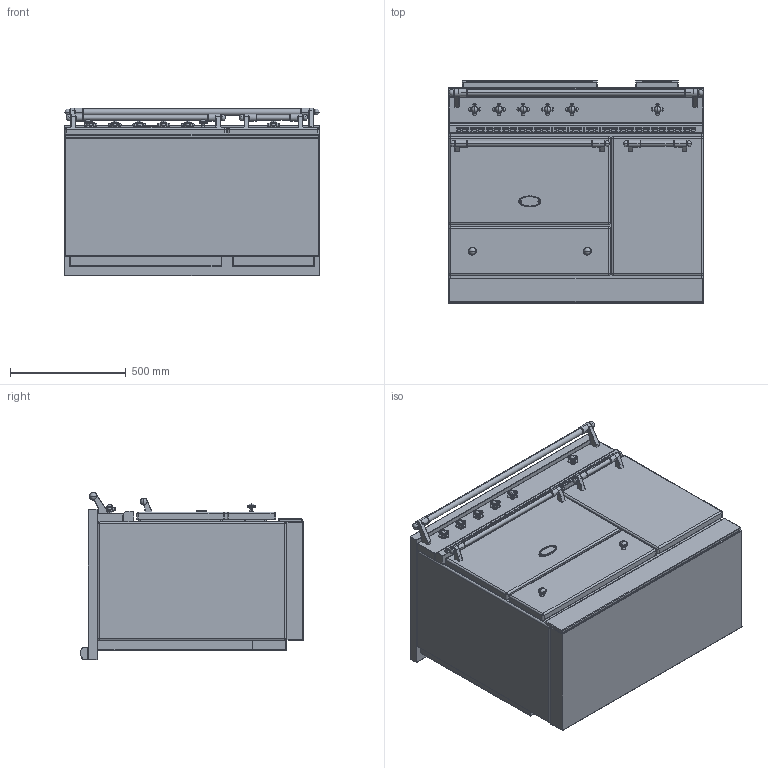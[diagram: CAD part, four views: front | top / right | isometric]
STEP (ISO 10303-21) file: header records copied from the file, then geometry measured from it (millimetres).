
FILE_DESCRIPTION((''),'2;1');
FILE_NAME('LVTR1142_SAVIGNY_ASM','2021-12-02T10:24:34',('r.avril'),(''),'CREO PARAMETRIC BY PTC INC, 2017260','CREO PARAMETRIC BY PTC INC, 2017260','');
FILE_SCHEMA(('AP203_CONFIGURATION_CONTROLLED_3D_DESIGN_OF_MECHANICAL_PARTS_AND_ASSEMBLIES_MIM_LF { 1 0 10303 403 2 1 2 }'));
Products named in the file (19): BASE_EXPORT_CHAMBERTIN_LVTR1141; 65650003; 65650004; 6531940; 6531941; 6531943; 65049009; 65650001; 6538399; 1931942; 65080022_AF0; 6531942_ASM; BASE_EXPORT_SAVIGNY_LVTR1142_ASM; TABLE_1105D_INDUCTION_ET_VTR; 65052002; CHEMINEE_2020_LG182_EXPORT_STEP; CHEMINEE_2020_LG582_EXPORT_STEP; TABLE_1105D_VTR_ASM; LVTR1142_SAVIGNY_ASM
Assembly tree (26 placements, depth 4):
  LVTR1142_SAVIGNY_ASM
    BASE_EXPORT_SAVIGNY_LVTR1142_ASM
      BASE_EXPORT_CHAMBERTIN_LVTR1141
      65650003
      65650004
      6531940  x2
      6531941  x2
      6531943  x2
      65049009
      65650001
      6531942_ASM  x6
        6538399
        1931942
        65080022_AF0
    TABLE_1105D_VTR_ASM
      TABLE_1105D_INDUCTION_ET_VTR
      65052002
      CHEMINEE_2020_LG182_EXPORT_STEP
      CHEMINEE_2020_LG582_EXPORT_STEP
Bounding box: 1105 x 963 x 724 mm (x, y, z)
Volume: 407090901 mm3; surface area: 10428956.5 mm2
Topology: 40 solids, 48 shells, 4199 faces, 11244 edges, 7176 vertices
Faces by surface type: plane 2139, cylinder 1366, torus 185, sphere 170, extrusion 170, bspline 81, cone 76, revolution 12
Entity records: 97166 total; most frequent: CARTESIAN_POINT 22310, ORIENTED_EDGE 13516, DIRECTION 13184, EDGE_CURVE 6768, VECTOR 4418, LINE 4388, VERTEX_POINT 4365, AXIS2_PLACEMENT_3D 4352
